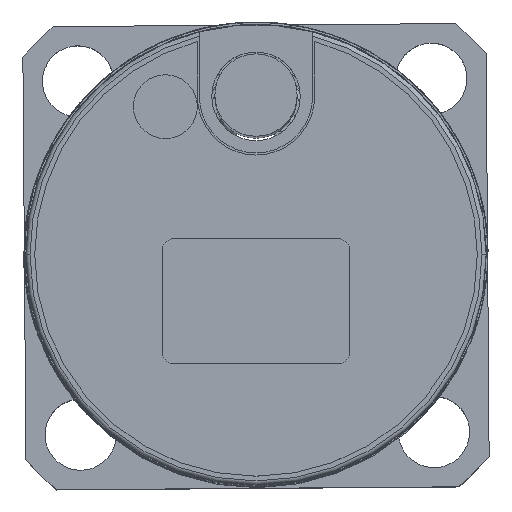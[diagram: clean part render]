
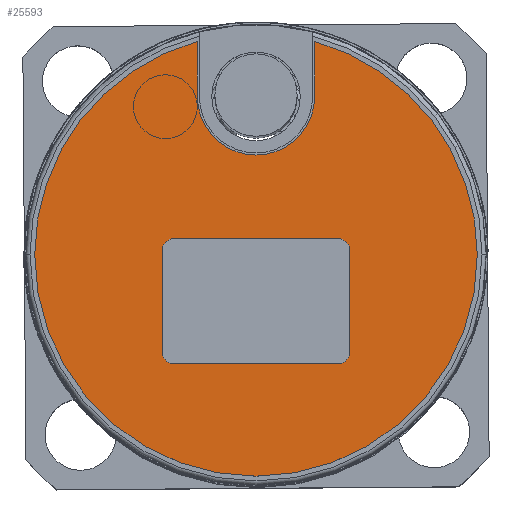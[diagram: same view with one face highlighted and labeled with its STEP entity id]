
A CAD part, top view. The second image highlights one B-rep face of the part: STEP entity #25593.
In plain terms, the highlighted planar face has unit normal (0, 0, 1).
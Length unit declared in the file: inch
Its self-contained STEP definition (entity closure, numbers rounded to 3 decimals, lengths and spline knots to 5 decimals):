
#15904 = FACE_BOUND ( 'NONE', #22044, .T. ) ;
#15910 = FACE_OUTER_BOUND ( 'NONE', #21962, .T. ) ;
#17524 = AXIS2_PLACEMENT_3D ( 'NONE', #32518, #32515, #32535 ) ;
#17525 = AXIS2_PLACEMENT_3D ( 'NONE', #32677, #32660, #32658 ) ;
#17544 = AXIS2_PLACEMENT_3D ( 'NONE', #32553, #32563, #32564 ) ;
#17548 = AXIS2_PLACEMENT_3D ( 'NONE', #32641, #32605, #32603 ) ;
#17556 = AXIS2_PLACEMENT_3D ( 'NONE', #32700, #32693, #32697 ) ;
#17557 = AXIS2_PLACEMENT_3D ( 'NONE', #32720, #32726, #32699 ) ;
#17568 = AXIS2_PLACEMENT_3D ( 'NONE', #32548, #32510, #32516 ) ;
#17576 = AXIS2_PLACEMENT_3D ( 'NONE', #32739, #32759, #32762 ) ;
#19942 = ORIENTED_EDGE ( 'NONE', *, *, #43623, .T. ) ;
#20074 = ORIENTED_EDGE ( 'NONE', *, *, #43611, .F. ) ;
#20080 = ORIENTED_EDGE ( 'NONE', *, *, #43620, .F. ) ;
#20094 = ORIENTED_EDGE ( 'NONE', *, *, #43635, .F. ) ;
#20095 = ORIENTED_EDGE ( 'NONE', *, *, #43565, .F. ) ;
#20097 = ORIENTED_EDGE ( 'NONE', *, *, #43621, .F. ) ;
#20101 = ORIENTED_EDGE ( 'NONE', *, *, #43575, .T. ) ;
#20105 = ORIENTED_EDGE ( 'NONE', *, *, #43591, .F. ) ;
#20107 = ORIENTED_EDGE ( 'NONE', *, *, #43597, .T. ) ;
#20120 = ORIENTED_EDGE ( 'NONE', *, *, #43619, .F. ) ;
#20122 = ORIENTED_EDGE ( 'NONE', *, *, #43544, .F. ) ;
#20135 = ORIENTED_EDGE ( 'NONE', *, *, #43564, .F. ) ;
#20152 = ORIENTED_EDGE ( 'NONE', *, *, #43576, .F. ) ;
#20155 = ORIENTED_EDGE ( 'NONE', *, *, #43568, .F. ) ;
#21962 = EDGE_LOOP ( 'NONE', ( #20097, #20074, #20120, #20101, #20107, #19942 ) ) ;
#22044 = EDGE_LOOP ( 'NONE', ( #20094, #20152, #20155, #20095, #20080, #20135, #20105, #20122 ) ) ;
#22522 = VERTEX_POINT ( 'NONE', #30010 ) ;
#22535 = VERTEX_POINT ( 'NONE', #30016 ) ;
#22537 = VERTEX_POINT ( 'NONE', #29998 ) ;
#22570 = VERTEX_POINT ( 'NONE', #30088 ) ;
#22572 = VERTEX_POINT ( 'NONE', #30090 ) ;
#22631 = VERTEX_POINT ( 'NONE', #30210 ) ;
#22648 = VERTEX_POINT ( 'NONE', #30177 ) ;
#22659 = VERTEX_POINT ( 'NONE', #30195 ) ;
#22715 = VERTEX_POINT ( 'NONE', #30111 ) ;
#22717 = VERTEX_POINT ( 'NONE', #30237 ) ;
#22732 = VERTEX_POINT ( 'NONE', #30112 ) ;
#22735 = VERTEX_POINT ( 'NONE', #30114 ) ;
#22745 = VERTEX_POINT ( 'NONE', #30165 ) ;
#22758 = VERTEX_POINT ( 'NONE', #30280 ) ;
#25593 = ADVANCED_FACE ( 'NONE', ( #15904, #15910 ), #31427, .T. ) ;
#29998 = CARTESIAN_POINT ( 'NONE',  ( 0.198, -0.265, 0.193 ) ) ;
#30010 = CARTESIAN_POINT ( 'NONE',  ( 0.198, 0.04, 0.193 ) ) ;
#30016 = CARTESIAN_POINT ( 'NONE',  ( 0.1425, 0.51827, 0.193 ) ) ;
#30088 = CARTESIAN_POINT ( 'NONE',  ( -0.1425, 0.51827, 0.193 ) ) ;
#30090 = CARTESIAN_POINT ( 'NONE',  ( 0.228, 0.01, 0.193 ) ) ;
#30111 = CARTESIAN_POINT ( 'NONE',  ( 0.1425, 0.385, 0.193 ) ) ;
#30112 = CARTESIAN_POINT ( 'NONE',  ( 0.228, -0.235, 0.193 ) ) ;
#30114 = CARTESIAN_POINT ( 'NONE',  ( -0.228, 0.01, 0.193 ) ) ;
#30165 = CARTESIAN_POINT ( 'NONE',  ( -0.1425, 0.385, 0.193 ) ) ;
#30177 = CARTESIAN_POINT ( 'NONE',  ( -0.198, 0.04, 0.193 ) ) ;
#30195 = CARTESIAN_POINT ( 'NONE',  ( -0.228, -0.235, 0.193 ) ) ;
#30210 = CARTESIAN_POINT ( 'NONE',  ( -0.198, -0.265, 0.193 ) ) ;
#30237 = CARTESIAN_POINT ( 'NONE',  ( -0.5375, 0., 0.193 ) ) ;
#30280 = CARTESIAN_POINT ( 'NONE',  ( 0.5375, 0., 0.193 ) ) ;
#31423 = CARTESIAN_POINT ( 'NONE',  ( 0., 0., 0.193 ) ) ;
#31427 = PLANE ( 'NONE',  #33556 ) ;
#31441 = DIRECTION ( 'NONE',  ( 0., 0., 1. ) ) ;
#31455 = DIRECTION ( 'NONE',  ( 1., 0., 0. ) ) ;
#32432 = CARTESIAN_POINT ( 'NONE',  ( -0.198, -0.265, 0.193 ) ) ;
#32456 = DIRECTION ( 'NONE',  ( 1., 0., 0. ) ) ;
#32467 = CARTESIAN_POINT ( 'NONE',  ( -0.198, 0.04, 0.193 ) ) ;
#32502 = CARTESIAN_POINT ( 'NONE',  ( 0.228, 0.01, 0.193 ) ) ;
#32506 = DIRECTION ( 'NONE',  ( 0., 1., 0. ) ) ;
#32510 = DIRECTION ( 'NONE',  ( 0., 0., 1. ) ) ;
#32515 = DIRECTION ( 'NONE',  ( 0., 0., 1. ) ) ;
#32516 = DIRECTION ( 'NONE',  ( 1., 0., 0. ) ) ;
#32518 = CARTESIAN_POINT ( 'NONE',  ( -0.198, 0.01, 0.193 ) ) ;
#32526 = DIRECTION ( 'NONE',  ( -1., 0., 0. ) ) ;
#32532 = DIRECTION ( 'NONE',  ( 0., -1., 0. ) ) ;
#32535 = DIRECTION ( 'NONE',  ( 1., 0., 0. ) ) ;
#32547 = CARTESIAN_POINT ( 'NONE',  ( -0.228, 0.01, 0.193 ) ) ;
#32548 = CARTESIAN_POINT ( 'NONE',  ( 0., 0., 0.193 ) ) ;
#32553 = CARTESIAN_POINT ( 'NONE',  ( 0.198, -0.235, 0.193 ) ) ;
#32563 = DIRECTION ( 'NONE',  ( 0., 0., 1. ) ) ;
#32564 = DIRECTION ( 'NONE',  ( 1., 0., 0. ) ) ;
#32603 = DIRECTION ( 'NONE',  ( 1., 0., 0. ) ) ;
#32605 = DIRECTION ( 'NONE',  ( 0., 0., 1. ) ) ;
#32641 = CARTESIAN_POINT ( 'NONE',  ( 0., 0., 0.193 ) ) ;
#32658 = DIRECTION ( 'NONE',  ( 1., 0., 0. ) ) ;
#32660 = DIRECTION ( 'NONE',  ( 0., 0., 1. ) ) ;
#32677 = CARTESIAN_POINT ( 'NONE',  ( 0., 0.385, 0.193 ) ) ;
#32690 = CARTESIAN_POINT ( 'NONE',  ( -0.1425, 0.51827, 0.193 ) ) ;
#32693 = DIRECTION ( 'NONE',  ( 0., 0., 1. ) ) ;
#32697 = DIRECTION ( 'NONE',  ( -1., 0., 0. ) ) ;
#32698 = CARTESIAN_POINT ( 'NONE',  ( 0.1425, 0.51827, 0.193 ) ) ;
#32699 = DIRECTION ( 'NONE',  ( 1., 0., 0. ) ) ;
#32700 = CARTESIAN_POINT ( 'NONE',  ( 0.198, 0.01, 0.193 ) ) ;
#32710 = DIRECTION ( 'NONE',  ( 0., 1., 0. ) ) ;
#32720 = CARTESIAN_POINT ( 'NONE',  ( 0., 0., 0.193 ) ) ;
#32726 = DIRECTION ( 'NONE',  ( 0., 0., 1. ) ) ;
#32728 = DIRECTION ( 'NONE',  ( 0., -1., 0. ) ) ;
#32739 = CARTESIAN_POINT ( 'NONE',  ( -0.198, -0.235, 0.193 ) ) ;
#32759 = DIRECTION ( 'NONE',  ( 0., 0., 1. ) ) ;
#32762 = DIRECTION ( 'NONE',  ( 1., 0., 0. ) ) ;
#33556 = AXIS2_PLACEMENT_3D ( 'NONE', #31423, #31441, #31455 ) ;
#34134 = CIRCLE ( 'NONE', #17568, 0.5375 ) ;
#34150 = CIRCLE ( 'NONE', #17524, 0.03 ) ;
#34157 = VECTOR ( 'NONE', #32456, 39.37008 ) ;
#34168 = LINE ( 'NONE', #32547, #34198 ) ;
#34196 = LINE ( 'NONE', #32467, #34214 ) ;
#34198 = VECTOR ( 'NONE', #32532, 39.37008 ) ;
#34203 = LINE ( 'NONE', #32502, #34226 ) ;
#34214 = VECTOR ( 'NONE', #32526, 39.37008 ) ;
#34226 = VECTOR ( 'NONE', #32506, 39.37008 ) ;
#34235 = LINE ( 'NONE', #32432, #34157 ) ;
#34257 = CIRCLE ( 'NONE', #17544, 0.03 ) ;
#34259 = LINE ( 'NONE', #32690, #34331 ) ;
#34274 = CIRCLE ( 'NONE', #17525, 0.1425 ) ;
#34277 = LINE ( 'NONE', #32698, #34384 ) ;
#34299 = CIRCLE ( 'NONE', #17576, 0.03 ) ;
#34319 = CIRCLE ( 'NONE', #17557, 0.5375 ) ;
#34331 = VECTOR ( 'NONE', #32728, 39.37008 ) ;
#34357 = CIRCLE ( 'NONE', #17548, 0.5375 ) ;
#34370 = CIRCLE ( 'NONE', #17556, 0.03 ) ;
#34384 = VECTOR ( 'NONE', #32710, 39.37008 ) ;
#43544 = EDGE_CURVE ( 'NONE', #22631, #22537, #34235, .T. ) ;
#43564 = EDGE_CURVE ( 'NONE', #22732, #22572, #34203, .T. ) ;
#43565 = EDGE_CURVE ( 'NONE', #22522, #22648, #34196, .T. ) ;
#43568 = EDGE_CURVE ( 'NONE', #22648, #22735, #34150, .T. ) ;
#43575 = EDGE_CURVE ( 'NONE', #22570, #22717, #34134, .T. ) ;
#43576 = EDGE_CURVE ( 'NONE', #22735, #22659, #34168, .T. ) ;
#43591 = EDGE_CURVE ( 'NONE', #22537, #22732, #34257, .T. ) ;
#43597 = EDGE_CURVE ( 'NONE', #22717, #22758, #34357, .T. ) ;
#43611 = EDGE_CURVE ( 'NONE', #22745, #22715, #34274, .T. ) ;
#43619 = EDGE_CURVE ( 'NONE', #22570, #22745, #34259, .T. ) ;
#43620 = EDGE_CURVE ( 'NONE', #22572, #22522, #34370, .T. ) ;
#43621 = EDGE_CURVE ( 'NONE', #22715, #22535, #34277, .T. ) ;
#43623 = EDGE_CURVE ( 'NONE', #22758, #22535, #34319, .T. ) ;
#43635 = EDGE_CURVE ( 'NONE', #22659, #22631, #34299, .T. ) ;
